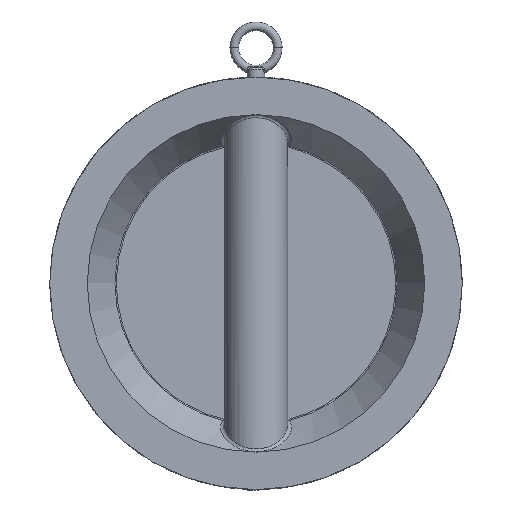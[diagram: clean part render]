
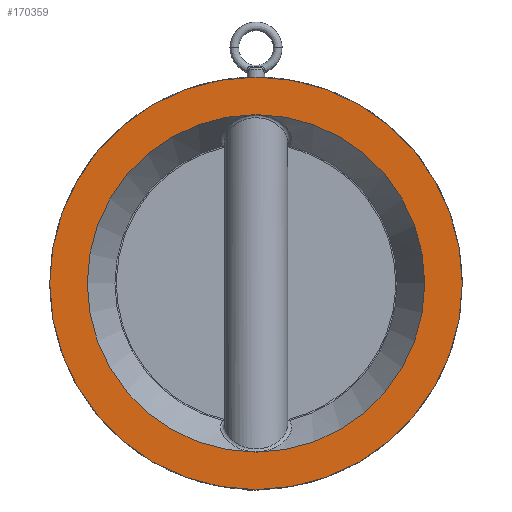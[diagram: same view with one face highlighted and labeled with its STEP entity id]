
A CAD part, front view. The second image highlights one B-rep face of the part: STEP entity #170359.
In plain terms, the highlighted planar face has unit normal (0, -1, 0).
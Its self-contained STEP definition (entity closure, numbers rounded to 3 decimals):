
#2682 = DIRECTION ( 'NONE',  ( 0., -1., 0. ) ) ;
#3721 = FACE_OUTER_BOUND ( 'NONE', #13127, .T. ) ;
#7942 = CARTESIAN_POINT ( 'NONE',  ( 0., 0., 0. ) ) ;
#13127 = EDGE_LOOP ( 'NONE', ( #142940, #144130 ) ) ;
#17382 = AXIS2_PLACEMENT_3D ( 'NONE', #84109, #2682, #97774 ) ;
#18015 = CARTESIAN_POINT ( 'NONE',  ( 0., 0., -155.403 ) ) ;
#21626 = DIRECTION ( 'NONE',  ( 0., 0., -1. ) ) ;
#23807 = CIRCLE ( 'NONE', #17382, 155.403 ) ;
#33196 = EDGE_CURVE ( 'NONE', #99528, #54717, #106855, .T. ) ;
#54717 = VERTEX_POINT ( 'NONE', #56429 ) ;
#56429 = CARTESIAN_POINT ( 'NONE',  ( 0., 0., 155.403 ) ) ;
#57732 = CARTESIAN_POINT ( 'NONE',  ( 0., 0., 0. ) ) ;
#60612 = AXIS2_PLACEMENT_3D ( 'NONE', #7942, #103065, #21626 ) ;
#61537 = CARTESIAN_POINT ( 'NONE',  ( 0., 0., 190. ) ) ;
#64410 = DIRECTION ( 'NONE',  ( 0., 0., -1. ) ) ;
#71448 = DIRECTION ( 'NONE',  ( 0., 0., -1. ) ) ;
#71473 = EDGE_CURVE ( 'NONE', #96325, #91269, #110385, .T. ) ;
#74224 = AXIS2_PLACEMENT_3D ( 'NONE', #118452, #145856, #64410 ) ;
#76733 = EDGE_CURVE ( 'NONE', #54717, #99528, #23807, .T. ) ;
#77414 = CARTESIAN_POINT ( 'NONE',  ( 0., 0., 0. ) ) ;
#84109 = CARTESIAN_POINT ( 'NONE',  ( 0., 0., 0. ) ) ;
#91061 = DIRECTION ( 'NONE',  ( 0., 0., -1. ) ) ;
#91159 = PLANE ( 'NONE',  #74224 ) ;
#91269 = VERTEX_POINT ( 'NONE', #61537 ) ;
#96325 = VERTEX_POINT ( 'NONE', #142639 ) ;
#97774 = DIRECTION ( 'NONE',  ( 0., 0., -1. ) ) ;
#99528 = VERTEX_POINT ( 'NONE', #18015 ) ;
#103065 = DIRECTION ( 'NONE',  ( 0., -1., 0. ) ) ;
#104640 = CIRCLE ( 'NONE', #161347, 190. ) ;
#106855 = CIRCLE ( 'NONE', #173503, 155.403 ) ;
#107990 = FACE_BOUND ( 'NONE', #166849, .T. ) ;
#110385 = CIRCLE ( 'NONE', #60612, 190. ) ;
#118452 = CARTESIAN_POINT ( 'NONE',  ( 0., 0., 0. ) ) ;
#126127 = ORIENTED_EDGE ( 'NONE', *, *, #76733, .F. ) ;
#134668 = EDGE_CURVE ( 'NONE', #91269, #96325, #104640, .T. ) ;
#142639 = CARTESIAN_POINT ( 'NONE',  ( 0., 0., -190. ) ) ;
#142940 = ORIENTED_EDGE ( 'NONE', *, *, #71473, .T. ) ;
#144130 = ORIENTED_EDGE ( 'NONE', *, *, #134668, .T. ) ;
#145856 = DIRECTION ( 'NONE',  ( 0., -1., 0. ) ) ;
#147738 = ORIENTED_EDGE ( 'NONE', *, *, #33196, .F. ) ;
#152879 = DIRECTION ( 'NONE',  ( 0., -1., 0. ) ) ;
#161347 = AXIS2_PLACEMENT_3D ( 'NONE', #57732, #152879, #71448 ) ;
#166849 = EDGE_LOOP ( 'NONE', ( #147738, #126127 ) ) ;
#170359 = ADVANCED_FACE ( 'NONE', ( #107990, #3721 ), #91159, .T. ) ;
#172519 = DIRECTION ( 'NONE',  ( 0., -1., 0. ) ) ;
#173503 = AXIS2_PLACEMENT_3D ( 'NONE', #77414, #172519, #91061 ) ;
